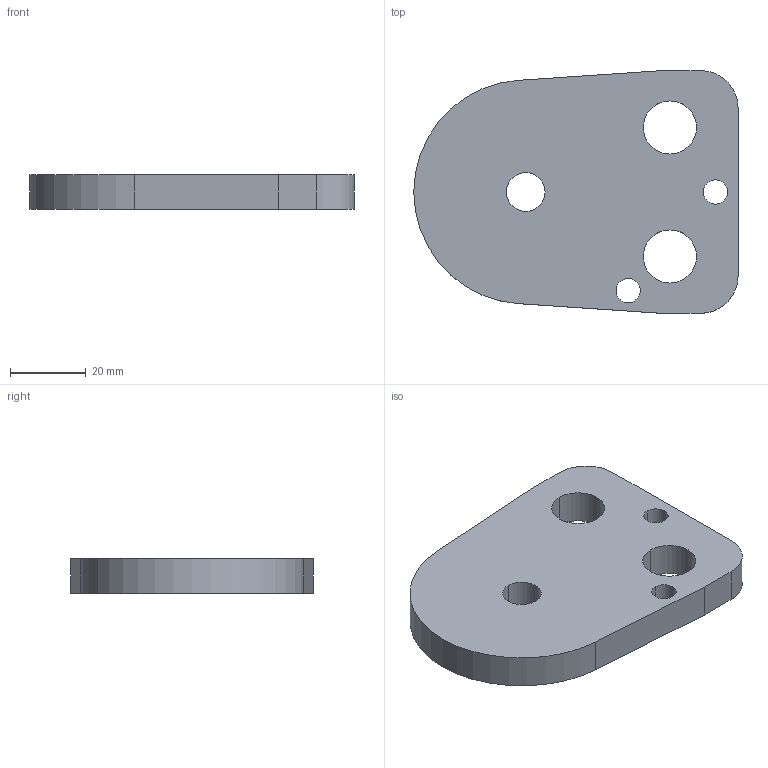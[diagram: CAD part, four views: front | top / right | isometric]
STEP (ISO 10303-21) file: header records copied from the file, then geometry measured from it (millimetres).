
FILE_DESCRIPTION(/* description */ (''),/* implementation_level */ '2;1');
FILE_NAME(/* name */ '3d_bpc45-9_03411_r00.stp',/* time_stamp */ '2011-01-10T14:17:08+09:00',/* author */ ('MISUMI'),/* organization */ (''),/* preprocessor_version */ 'ST-DEVELOPER v11',/* originating_system */ 'UGS - NX 5.0',/* authorisation */ '');
FILE_SCHEMA (('CONFIG_CONTROL_DESIGN'));
Length unit declared in the file: millimetre
Products named in the file (1): 3d_bpc45-9_03411_r00
Bounding box: 85.5 x 64 x 9 mm (x, y, z)
Volume: 39299.8 mm3; surface area: 12517.7 mm2
Topology: 1 solids, 1 shells, 20 faces, 54 edges, 36 vertices
Faces by surface type: cylinder 13, plane 7
Entity records: 750 total; most frequent: DIRECTION 122, CARTESIAN_POINT 111, ORIENTED_EDGE 108, EDGE_CURVE 54, AXIS2_PLACEMENT_3D 47, VERTEX_POINT 36, EDGE_LOOP 30, LINE 28
